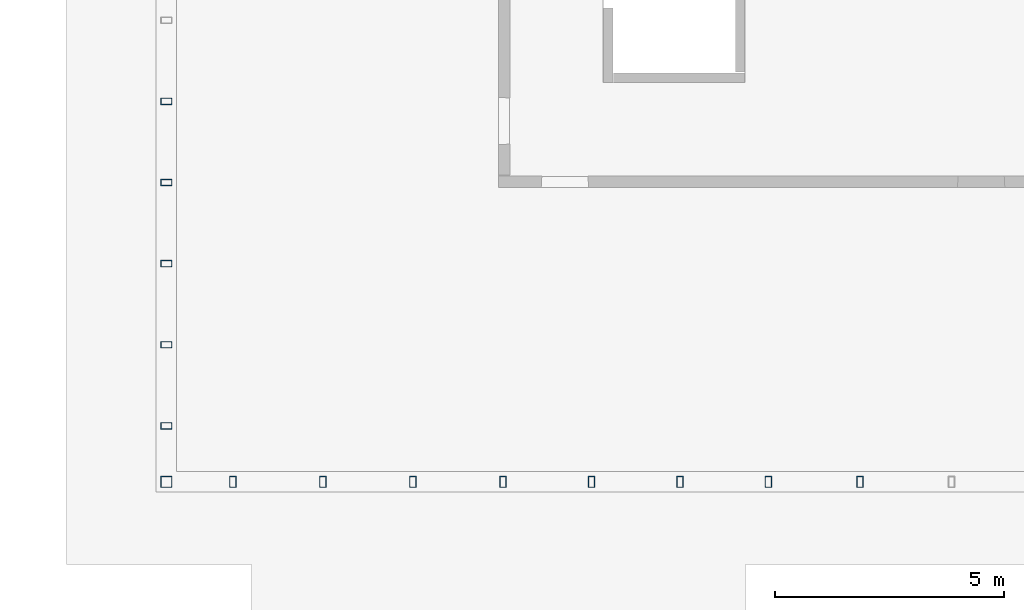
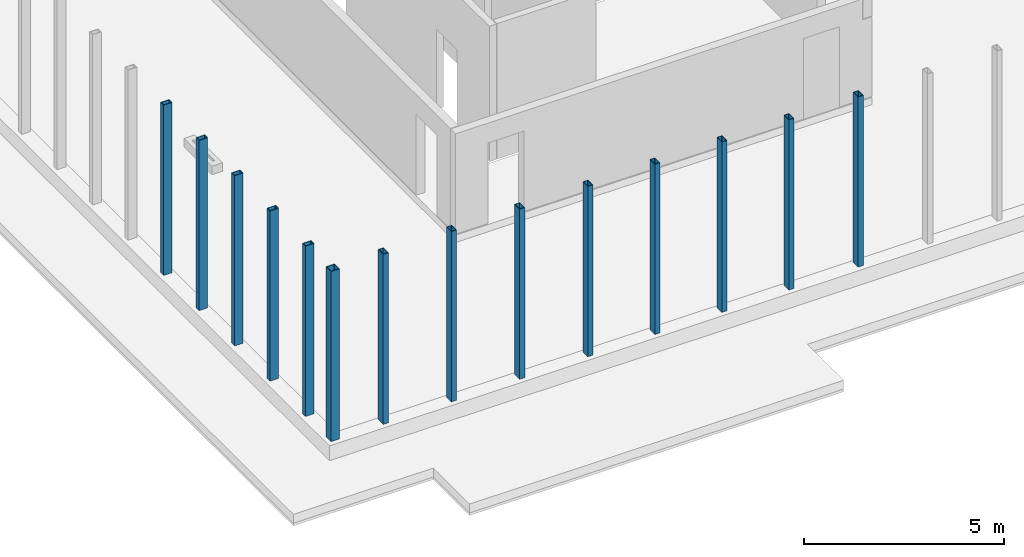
# One storey, part 1 of 9: 14 columns.
"""IFC2X3 building model written with IfcOpenShell, lengths in millimetres."""

from ifc_helpers import new_model, entity, si_unit, converted_unit, derived_unit, direction, frame, frame_2d, origin, place, context, subcontext, project, spatial, polyline, circle_curve, parameter, trimmed, segment, composite_curve, outline, extrude, source, transform, mapped, material, type_object, type_shapes, element, save


model = new_model("IFC2X3")

# Units and contexts
model_context = context("Model", 3, precision=0.01, world=origin(), true_north=direction((6.12303176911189e-17, 1.0)))
body_context = subcontext(model_context, "Body", "Model", "MODEL_VIEW")
ifc_project = project(units=[si_unit("LENGTHUNIT", "METRE", prefix="MILLI"), si_unit("AREAUNIT", "SQUARE_METRE"), si_unit("VOLUMEUNIT", "CUBIC_METRE"), converted_unit("PLANEANGLEUNIT", "DEGREE", entity("IfcRatioMeasure", 0.0174532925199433), si_unit("PLANEANGLEUNIT", "RADIAN"), dimensions=[0, 0, 0, 0, 0, 0, 0]), si_unit("MASSUNIT", "GRAM", prefix="KILO"), derived_unit("MASSDENSITYUNIT", [(si_unit("MASSUNIT", "GRAM", prefix="KILO"), 1), (si_unit("LENGTHUNIT", "METRE"), -3)]), si_unit("TIMEUNIT", "SECOND"), si_unit("FREQUENCYUNIT", "HERTZ"), si_unit("THERMODYNAMICTEMPERATUREUNIT", "DEGREE_CELSIUS"), derived_unit("THERMALTRANSMITTANCEUNIT", [(si_unit("MASSUNIT", "GRAM", prefix="KILO"), 1), (si_unit("THERMODYNAMICTEMPERATUREUNIT", "KELVIN"), -1), (si_unit("TIMEUNIT", "SECOND"), -3)]), derived_unit("VOLUMETRICFLOWRATEUNIT", [(si_unit("LENGTHUNIT", "METRE"), 3), (si_unit("TIMEUNIT", "SECOND"), -1)]), si_unit("ELECTRICCURRENTUNIT", "AMPERE"), si_unit("ELECTRICVOLTAGEUNIT", "VOLT"), si_unit("POWERUNIT", "WATT"), si_unit("FORCEUNIT", "NEWTON", prefix="KILO"), si_unit("ILLUMINANCEUNIT", "LUX"), si_unit("LUMINOUSFLUXUNIT", "LUMEN"), si_unit("LUMINOUSINTENSITYUNIT", "CANDELA"), derived_unit("USERDEFINED", [(si_unit("MASSUNIT", "GRAM", prefix="KILO"), -1), (si_unit("LENGTHUNIT", "METRE"), -2), (si_unit("TIMEUNIT", "SECOND"), 3), (si_unit("LUMINOUSFLUXUNIT", "LUMEN"), 1)]), derived_unit("LINEARVELOCITYUNIT", [(si_unit("LENGTHUNIT", "METRE"), 1), (si_unit("TIMEUNIT", "SECOND"), -1)]), si_unit("PRESSUREUNIT", "PASCAL"), derived_unit("USERDEFINED", [(si_unit("LENGTHUNIT", "METRE"), -2), (si_unit("MASSUNIT", "GRAM", prefix="KILO"), 1), (si_unit("TIMEUNIT", "SECOND"), -2)])], contexts=[model_context])

# Site, building, storey
site_placement = place(None, origin())
site = spatial("IfcSite", under=ifc_project, at=site_placement, Name="Default", CompositionType="ELEMENT")
building_placement = place(site_placement, origin())
building = spatial("IfcBuilding", under=site, at=building_placement, Name="niet gebruiken", CompositionType="ELEMENT")
storey_placement = place(building_placement, frame((0.0, 0.0, 178840.0)))
storey = spatial("IfcBuildingStorey", under=building, at=storey_placement, Name="57 zevenenvijftigste verdieping", CompositionType="ELEMENT", Elevation=178840.0)

# Columns
ifc_material = material(Name="NLRS_h2_staal")
column_type_1 = type_object("IfcColumnType", Name="kolom buisprofiel rechthoekig RHSH_250x150x16", PredefinedType="COLUMN", material=ifc_material)
shared_shape_1 = source(origin(), body_context, "Body", "SweptSolid", [
    extrude(outline(polyline([(-125.0, -75.0), (125.0, -75.0), (125.0, 75.0), (-125.0, 75.0), (-125.0, -75.0)]), holes=[composite_curve([segment(trimmed(circle_curve(frame_2d((-96.4999999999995, -46.5), x_axis=(0.0, 1.0)), 12.5), [parameter(90.0)], [parameter(180.0)], True, "PARAMETER"), False, "CONTINUOUS"), segment(polyline([(-109.0, -46.5), (-109.0, 46.5)]), True, "CONTINUOUS"), segment(trimmed(circle_curve(frame_2d((-96.4999999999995, 46.5), x_axis=(0.0, 1.0)), 12.5), [parameter(360.0)], [parameter(89.9999999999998)], True, "PARAMETER"), False, "CONTINUOUS"), segment(polyline([(-96.4999999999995, 59.0), (96.5000000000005, 59.0)]), True, "CONTINUOUS"), segment(trimmed(circle_curve(frame_2d((96.5000000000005, 46.5), x_axis=(0.0, 1.0)), 12.5), [parameter(270.0)], [parameter(360.0)], True, "PARAMETER"), False, "CONTINUOUS"), segment(polyline([(109.0, 46.5), (109.0, -46.5)]), True, "CONTINUOUS"), segment(trimmed(circle_curve(frame_2d((96.5000000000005, -46.5), x_axis=(0.0, 1.0)), 12.5), [parameter(180.0)], [parameter(270.0)], True, "PARAMETER"), False, "CONTINUOUS"), segment(polyline([(96.5000000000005, -59.0), (-96.4999999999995, -59.0)]), True, "CONTINUOUS")], self_intersect=False)]), frame((135850.0, 3870.0, 179010.0), z_axis=(0.0, 0.0, 1.0), x_axis=(0.0, -1.0, 0.0)), (0.0, 0.0, 1.0), 5190.00000000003),
])
type_shapes(column_type_1, [shared_shape_1])
column_1_placement = place(storey_placement, frame((0.0, 0.0, -178840.0)))
element("IfcColumn", 1, at=column_1_placement, inside=storey, type_object=column_type_1, material=ifc_material, Name="NLRS_28.11_SCO_TLB_stalen kolom buisprofiel rechthoekig_gen:kolom buisprofiel rechthoekig RHSH_250x150x16", ObjectType="kolom buisprofiel rechthoekig RHSH_250x150x16", context=body_context, shape_type="MappedRepresentation", body=[
    mapped(shared_shape_1, transform((0.0, 0.0, 0.0), scale=1.0)),
])
column_type_2 = type_object("IfcColumnType", Name="kolom buisprofiel rechthoekig RHSH_250x150x16", PredefinedType="COLUMN", material=ifc_material)
shared_shape_2 = source(origin(), body_context, "Body", "SweptSolid", [
    extrude(outline(polyline([(-125.0, -75.0), (125.0, -75.0), (125.0, 75.0), (-125.0, 75.0), (-125.0, -75.0)]), holes=[composite_curve([segment(trimmed(circle_curve(frame_2d((-96.4999999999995, -46.4999999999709), x_axis=(0.0, 1.0)), 12.5), [parameter(90.0)], [parameter(180.0)], True, "PARAMETER"), False, "CONTINUOUS"), segment(polyline([(-109.0, -46.4999999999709), (-109.0, 46.5)]), True, "CONTINUOUS"), segment(trimmed(circle_curve(frame_2d((-96.4999999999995, 46.5), x_axis=(0.0, 1.0)), 12.5), [parameter(360.0)], [parameter(89.9999999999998)], True, "PARAMETER"), False, "CONTINUOUS"), segment(polyline([(-96.4999999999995, 59.0), (96.5000000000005, 59.0)]), True, "CONTINUOUS"), segment(trimmed(circle_curve(frame_2d((96.5000000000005, 46.5), x_axis=(0.0, 1.0)), 12.5), [parameter(270.0)], [parameter(360.0)], True, "PARAMETER"), False, "CONTINUOUS"), segment(polyline([(109.0, 46.5), (109.0, -46.4999999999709)]), True, "CONTINUOUS"), segment(trimmed(circle_curve(frame_2d((96.5000000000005, -46.4999999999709), x_axis=(0.0, 1.0)), 12.5), [parameter(180.0)], [parameter(270.0)], True, "PARAMETER"), False, "CONTINUOUS"), segment(polyline([(96.5000000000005, -59.0), (-96.4999999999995, -59.0)]), True, "CONTINUOUS")], self_intersect=False)]), frame((141650.0, 3870.0, 179010.0), z_axis=(0.0, 0.0, 1.0), x_axis=(0.0, -1.0, 0.0)), (0.0, 0.0, 1.0), 5190.00000000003),
])
type_shapes(column_type_2, [shared_shape_2])
column_2_placement = place(storey_placement, frame((0.0, 0.0, -178840.0)))
element("IfcColumn", 2, at=column_2_placement, inside=storey, type_object=column_type_2, material=ifc_material, Name="NLRS_28.11_SCO_TLB_stalen kolom buisprofiel rechthoekig_gen:kolom buisprofiel rechthoekig RHSH_250x150x16", ObjectType="kolom buisprofiel rechthoekig RHSH_250x150x16", context=body_context, shape_type="MappedRepresentation", body=[
    mapped(shared_shape_2, transform((0.0, 0.0, 0.0), scale=1.0)),
])
column_type_3 = type_object("IfcColumnType", Name="kolom buisprofiel rechthoekig RHSH_250x150x16", PredefinedType="COLUMN", material=ifc_material)
shared_shape_3 = source(origin(), body_context, "Body", "SweptSolid", [
    extrude(outline(polyline([(-125.0, -75.0), (125.0, -75.0), (125.0, 75.0), (-125.0, 75.0), (-125.0, -75.0)]), holes=[composite_curve([segment(trimmed(circle_curve(frame_2d((-96.5000000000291, -46.5), x_axis=(0.0, 1.0)), 12.5), [parameter(90.0)], [parameter(180.0)], True, "PARAMETER"), False, "CONTINUOUS"), segment(polyline([(-109.0, -46.5), (-109.0, 46.5)]), True, "CONTINUOUS"), segment(trimmed(circle_curve(frame_2d((-96.5000000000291, 46.5), x_axis=(0.0, 1.0)), 12.5), [parameter(360.0)], [parameter(89.9999999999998)], True, "PARAMETER"), False, "CONTINUOUS"), segment(polyline([(-96.5, 59.0), (96.4999999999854, 59.0)]), True, "CONTINUOUS"), segment(trimmed(circle_curve(frame_2d((96.4999999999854, 46.5), x_axis=(0.0, 1.0)), 12.5), [parameter(270.0)], [parameter(360.0)], True, "PARAMETER"), False, "CONTINUOUS"), segment(polyline([(109.0, 46.5), (109.0, -46.5)]), True, "CONTINUOUS"), segment(trimmed(circle_curve(frame_2d((96.4999999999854, -46.5), x_axis=(0.0, 1.0)), 12.5), [parameter(180.0)], [parameter(270.0)], True, "PARAMETER"), False, "CONTINUOUS"), segment(polyline([(96.4999999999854, -59.0), (-96.5, -59.0)]), True, "CONTINUOUS")], self_intersect=False)]), frame((128495.0, 10410.0, 179010.0)), (0.0, 0.0, 1.0), 5190.00000000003),
])
type_shapes(column_type_3, [shared_shape_3])
column_3_placement = place(storey_placement, frame((0.0, 0.0, -178840.0)))
element("IfcColumn", 3, at=column_3_placement, inside=storey, type_object=column_type_3, material=ifc_material, Name="NLRS_28.11_SCO_TLB_stalen kolom buisprofiel rechthoekig_gen:kolom buisprofiel rechthoekig RHSH_250x150x16", ObjectType="kolom buisprofiel rechthoekig RHSH_250x150x16", context=body_context, shape_type="MappedRepresentation", body=[
    mapped(shared_shape_3, transform((0.0, 0.0, 0.0), scale=1.0)),
])
column_type_4 = type_object("IfcColumnType", Name="kolom buisprofiel rechthoekig RHSH_250x150x16", PredefinedType="COLUMN", material=ifc_material)
shared_shape_4 = source(origin(), body_context, "Body", "SweptSolid", [
    extrude(outline(polyline([(-125.0, -75.0), (125.0, -75.0), (125.0, 75.0), (-125.0, 75.0), (-125.0, -75.0)]), holes=[composite_curve([segment(trimmed(circle_curve(frame_2d((-96.5, -46.5), x_axis=(0.0, 1.0)), 12.5), [parameter(90.0)], [parameter(180.0)], True, "PARAMETER"), False, "CONTINUOUS"), segment(polyline([(-109.0, -46.5), (-109.0, 46.5)]), True, "CONTINUOUS"), segment(trimmed(circle_curve(frame_2d((-96.5, 46.5), x_axis=(0.0, 1.0)), 12.5), [parameter(360.0)], [parameter(89.9999999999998)], True, "PARAMETER"), False, "CONTINUOUS"), segment(polyline([(-96.5, 59.0), (96.5, 59.0)]), True, "CONTINUOUS"), segment(trimmed(circle_curve(frame_2d((96.5, 46.5), x_axis=(0.0, 1.0)), 12.5), [parameter(270.0)], [parameter(360.0)], True, "PARAMETER"), False, "CONTINUOUS"), segment(polyline([(109.0, 46.5), (109.0, -46.5)]), True, "CONTINUOUS"), segment(trimmed(circle_curve(frame_2d((96.5, -46.5), x_axis=(0.0, 1.0)), 12.5), [parameter(180.0)], [parameter(270.0)], True, "PARAMETER"), False, "CONTINUOUS"), segment(polyline([(96.5, -59.0), (-96.5, -59.0)]), True, "CONTINUOUS")], self_intersect=False)]), frame((129950.0, 3870.0, 179010.0), z_axis=(0.0, 0.0, 1.0), x_axis=(0.0, -1.0, 0.0)), (0.0, 0.0, 1.0), 5190.00000000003),
])
type_shapes(column_type_4, [shared_shape_4])
column_4_placement = place(storey_placement, frame((0.0, 0.0, -178840.0)))
element("IfcColumn", 4, at=column_4_placement, inside=storey, type_object=column_type_4, material=ifc_material, Name="NLRS_28.11_SCO_TLB_stalen kolom buisprofiel rechthoekig_gen:kolom buisprofiel rechthoekig RHSH_250x150x16", ObjectType="kolom buisprofiel rechthoekig RHSH_250x150x16", context=body_context, shape_type="MappedRepresentation", body=[
    mapped(shared_shape_4, transform((0.0, 0.0, 0.0), scale=1.0)),
])
column_type_5 = type_object("IfcColumnType", Name="kolom buisprofiel rechthoekig RHSH_250x150x16", PredefinedType="COLUMN", material=ifc_material)
shared_shape_5 = source(origin(), body_context, "Body", "SweptSolid", [
    extrude(outline(polyline([(-125.0, -75.0), (125.0, -75.0), (125.0, 75.0), (-125.0, 75.0), (-125.0, -75.0)]), holes=[composite_curve([segment(trimmed(circle_curve(frame_2d((-96.5000000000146, -46.5000000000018), x_axis=(0.0, 1.0)), 12.5), [parameter(90.0)], [parameter(180.0)], True, "PARAMETER"), False, "CONTINUOUS"), segment(polyline([(-109.0, -46.5000000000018), (-109.0, 46.5)]), True, "CONTINUOUS"), segment(trimmed(circle_curve(frame_2d((-96.5000000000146, 46.5), x_axis=(0.0, 1.0)), 12.5), [parameter(360.0)], [parameter(89.9999999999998)], True, "PARAMETER"), False, "CONTINUOUS"), segment(polyline([(-96.5, 59.0), (96.4999999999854, 59.0)]), True, "CONTINUOUS"), segment(trimmed(circle_curve(frame_2d((96.4999999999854, 46.5), x_axis=(0.0, 1.0)), 12.5), [parameter(270.0)], [parameter(360.0)], True, "PARAMETER"), False, "CONTINUOUS"), segment(polyline([(109.0, 46.5), (109.0, -46.5000000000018)]), True, "CONTINUOUS"), segment(trimmed(circle_curve(frame_2d((96.4999999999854, -46.5000000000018), x_axis=(0.0, 1.0)), 12.5), [parameter(180.0)], [parameter(270.0)], True, "PARAMETER"), False, "CONTINUOUS"), segment(polyline([(96.4999999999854, -59.0), (-96.5, -59.0)]), True, "CONTINUOUS")], self_intersect=False)]), frame((128495.0, 12182.5000000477, 179010.0)), (0.0, 0.0, 1.0), 5190.00000000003),
])
type_shapes(column_type_5, [shared_shape_5])
column_5_placement = place(storey_placement, frame((0.0, 0.0, -178840.0)))
element("IfcColumn", 5, at=column_5_placement, inside=storey, type_object=column_type_5, material=ifc_material, Name="NLRS_28.11_SCO_TLB_stalen kolom buisprofiel rechthoekig_gen:kolom buisprofiel rechthoekig RHSH_250x150x16", ObjectType="kolom buisprofiel rechthoekig RHSH_250x150x16", context=body_context, shape_type="MappedRepresentation", body=[
    mapped(shared_shape_5, transform((0.0, 0.0, 0.0), scale=1.0)),
])
column_type_6 = type_object("IfcColumnType", Name="kolom buisprofiel rechthoekig RHSH_250x150x16", PredefinedType="COLUMN", material=ifc_material)
shared_shape_6 = source(origin(), body_context, "Body", "SweptSolid", [
    extrude(outline(polyline([(-125.0, -75.0), (125.0, -75.0), (125.0, 75.0), (-125.0, 75.0), (-125.0, -75.0)]), holes=[composite_curve([segment(trimmed(circle_curve(frame_2d((-96.5000000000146, -46.5), x_axis=(0.0, 1.0)), 12.5), [parameter(90.0)], [parameter(180.0)], True, "PARAMETER"), False, "CONTINUOUS"), segment(polyline([(-109.0, -46.5), (-109.0, 46.5)]), True, "CONTINUOUS"), segment(trimmed(circle_curve(frame_2d((-96.5000000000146, 46.5), x_axis=(0.0, 1.0)), 12.5), [parameter(360.0)], [parameter(89.9999999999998)], True, "PARAMETER"), False, "CONTINUOUS"), segment(polyline([(-96.5, 59.0), (96.4999999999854, 59.0)]), True, "CONTINUOUS"), segment(trimmed(circle_curve(frame_2d((96.4999999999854, 46.5), x_axis=(0.0, 1.0)), 12.5), [parameter(270.0)], [parameter(360.0)], True, "PARAMETER"), False, "CONTINUOUS"), segment(polyline([(109.0, 46.4999999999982), (109.0, -46.5)]), True, "CONTINUOUS"), segment(trimmed(circle_curve(frame_2d((96.4999999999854, -46.5), x_axis=(0.0, 1.0)), 12.5), [parameter(180.0)], [parameter(270.0)], True, "PARAMETER"), False, "CONTINUOUS"), segment(polyline([(96.4999999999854, -59.0), (-96.5, -59.0)]), True, "CONTINUOUS")], self_intersect=False)]), frame((128495.0, 8637.50000005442, 179010.0)), (0.0, 0.0, 1.0), 5190.00000000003),
])
type_shapes(column_type_6, [shared_shape_6])
column_6_placement = place(storey_placement, frame((0.0, 0.0, -178840.0)))
element("IfcColumn", 6, at=column_6_placement, inside=storey, type_object=column_type_6, material=ifc_material, Name="NLRS_28.11_SCO_TLB_stalen kolom buisprofiel rechthoekig_gen:kolom buisprofiel rechthoekig RHSH_250x150x16", ObjectType="kolom buisprofiel rechthoekig RHSH_250x150x16", context=body_context, shape_type="MappedRepresentation", body=[
    mapped(shared_shape_6, transform((0.0, 0.0, 0.0), scale=1.0)),
])
column_type_7 = type_object("IfcColumnType", Name="kolom buisprofiel rechthoekig RHSH_250x150x16", PredefinedType="COLUMN", material=ifc_material)
shared_shape_7 = source(origin(), body_context, "Body", "SweptSolid", [
    extrude(outline(polyline([(-125.0, -75.0), (125.0, -75.0), (125.0, 75.0), (-125.0, 75.0), (-125.0, -75.0)]), holes=[composite_curve([segment(trimmed(circle_curve(frame_2d((-96.5000000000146, -46.5), x_axis=(0.0, 1.0)), 12.5), [parameter(90.0)], [parameter(180.0)], True, "PARAMETER"), False, "CONTINUOUS"), segment(polyline([(-109.0, -46.5), (-109.0, 46.5000000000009)]), True, "CONTINUOUS"), segment(trimmed(circle_curve(frame_2d((-96.5000000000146, 46.5000000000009), x_axis=(0.0, 1.0)), 12.5), [parameter(360.0)], [parameter(89.9999999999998)], True, "PARAMETER"), False, "CONTINUOUS"), segment(polyline([(-96.5, 59.0), (96.4999999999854, 59.0)]), True, "CONTINUOUS"), segment(trimmed(circle_curve(frame_2d((96.4999999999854, 46.5000000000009), x_axis=(0.0, 1.0)), 12.5), [parameter(270.0)], [parameter(360.0)], True, "PARAMETER"), False, "CONTINUOUS"), segment(polyline([(109.0, 46.5), (109.0, -46.5)]), True, "CONTINUOUS"), segment(trimmed(circle_curve(frame_2d((96.4999999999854, -46.5), x_axis=(0.0, 1.0)), 12.5), [parameter(180.0)], [parameter(270.0)], True, "PARAMETER"), False, "CONTINUOUS"), segment(polyline([(96.4999999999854, -59.0), (-96.5, -59.0)]), True, "CONTINUOUS")], self_intersect=False)]), frame((128495.0, 6865.0, 179010.0)), (0.0, 0.0, 1.0), 5190.00000000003),
])
type_shapes(column_type_7, [shared_shape_7])
column_7_placement = place(storey_placement, frame((0.0, 0.0, -178840.0)))
element("IfcColumn", 7, at=column_7_placement, inside=storey, type_object=column_type_7, material=ifc_material, Name="NLRS_28.11_SCO_TLB_stalen kolom buisprofiel rechthoekig_gen:kolom buisprofiel rechthoekig RHSH_250x150x16", ObjectType="kolom buisprofiel rechthoekig RHSH_250x150x16", context=body_context, shape_type="MappedRepresentation", body=[
    mapped(shared_shape_7, transform((0.0, 0.0, 0.0), scale=1.0)),
])
column_type_8 = type_object("IfcColumnType", Name="kolom buisprofiel rechthoekig RHSH_250x150x16", PredefinedType="COLUMN", material=ifc_material)
shared_shape_8 = source(origin(), body_context, "Body", "SweptSolid", [
    extrude(outline(polyline([(-125.0, -75.0), (125.0, -75.0), (125.0, 75.0), (-125.0, 75.0), (-125.0, -75.0)]), holes=[composite_curve([segment(trimmed(circle_curve(frame_2d((-96.5000000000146, -46.5), x_axis=(0.0, 1.0)), 12.5), [parameter(90.0)], [parameter(180.0)], True, "PARAMETER"), False, "CONTINUOUS"), segment(polyline([(-109.0, -46.5), (-109.0, 46.5)]), True, "CONTINUOUS"), segment(trimmed(circle_curve(frame_2d((-96.5000000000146, 46.5), x_axis=(0.0, 1.0)), 12.5), [parameter(360.0)], [parameter(89.9999999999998)], True, "PARAMETER"), False, "CONTINUOUS"), segment(polyline([(-96.5, 59.0), (96.4999999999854, 59.0)]), True, "CONTINUOUS"), segment(trimmed(circle_curve(frame_2d((96.4999999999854, 46.5), x_axis=(0.0, 1.0)), 12.5), [parameter(270.0)], [parameter(360.0)], True, "PARAMETER"), False, "CONTINUOUS"), segment(polyline([(109.0, 46.4999999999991), (109.0, -46.5)]), True, "CONTINUOUS"), segment(trimmed(circle_curve(frame_2d((96.4999999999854, -46.5), x_axis=(0.0, 1.0)), 12.5), [parameter(180.0)], [parameter(270.0)], True, "PARAMETER"), False, "CONTINUOUS"), segment(polyline([(96.4999999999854, -59.0), (-96.5, -59.0)]), True, "CONTINUOUS")], self_intersect=False)]), frame((128495.0, 5092.50000005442, 179010.0)), (0.0, 0.0, 1.0), 5190.00000000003),
])
type_shapes(column_type_8, [shared_shape_8])
column_8_placement = place(storey_placement, frame((0.0, 0.0, -178840.0)))
element("IfcColumn", 8, at=column_8_placement, inside=storey, type_object=column_type_8, material=ifc_material, Name="NLRS_28.11_SCO_TLB_stalen kolom buisprofiel rechthoekig_gen:kolom buisprofiel rechthoekig RHSH_250x150x16", ObjectType="kolom buisprofiel rechthoekig RHSH_250x150x16", context=body_context, shape_type="MappedRepresentation", body=[
    mapped(shared_shape_8, transform((0.0, 0.0, 0.0), scale=1.0)),
])
column_type_9 = type_object("IfcColumnType", Name="kolom buisprofiel rechthoekig RHSH_250x150x16", PredefinedType="COLUMN", material=ifc_material)
shared_shape_9 = source(origin(), body_context, "Body", "SweptSolid", [
    extrude(outline(polyline([(-125.0, -75.0), (125.0, -75.0), (125.0, 75.0), (-125.0, 75.0), (-125.0, -75.0)]), holes=[composite_curve([segment(trimmed(circle_curve(frame_2d((-96.4999999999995, -46.5), x_axis=(0.0, 1.0)), 12.5), [parameter(90.0)], [parameter(180.0)], True, "PARAMETER"), False, "CONTINUOUS"), segment(polyline([(-109.0, -46.5), (-109.0, 46.5)]), True, "CONTINUOUS"), segment(trimmed(circle_curve(frame_2d((-96.4999999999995, 46.5), x_axis=(0.0, 1.0)), 12.5), [parameter(360.0)], [parameter(89.9999999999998)], True, "PARAMETER"), False, "CONTINUOUS"), segment(polyline([(-96.4999999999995, 59.0), (96.5000000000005, 59.0)]), True, "CONTINUOUS"), segment(trimmed(circle_curve(frame_2d((96.5000000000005, 46.5), x_axis=(0.0, 1.0)), 12.5), [parameter(270.0)], [parameter(360.0)], True, "PARAMETER"), False, "CONTINUOUS"), segment(polyline([(109.0, 46.5), (109.0, -46.5)]), True, "CONTINUOUS"), segment(trimmed(circle_curve(frame_2d((96.5000000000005, -46.5), x_axis=(0.0, 1.0)), 12.5), [parameter(180.0)], [parameter(270.0)], True, "PARAMETER"), False, "CONTINUOUS"), segment(polyline([(96.5000000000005, -59.0), (-96.4999999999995, -59.0)]), True, "CONTINUOUS")], self_intersect=False)]), frame((131916.666666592, 3870.0, 179010.0), z_axis=(0.0, 0.0, 1.0), x_axis=(0.0, -1.0, 0.0)), (0.0, 0.0, 1.0), 5190.00000000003),
])
type_shapes(column_type_9, [shared_shape_9])
column_9_placement = place(storey_placement, frame((0.0, 0.0, -178840.0)))
element("IfcColumn", 9, at=column_9_placement, inside=storey, type_object=column_type_9, material=ifc_material, Name="NLRS_28.11_SCO_TLB_stalen kolom buisprofiel rechthoekig_gen:kolom buisprofiel rechthoekig RHSH_250x150x16", ObjectType="kolom buisprofiel rechthoekig RHSH_250x150x16", context=body_context, shape_type="MappedRepresentation", body=[
    mapped(shared_shape_9, transform((0.0, 0.0, 0.0), scale=1.0)),
])
column_type_10 = type_object("IfcColumnType", Name="kolom buisprofiel rechthoekig RHSH_250x150x16", PredefinedType="COLUMN", material=ifc_material)
shared_shape_10 = source(origin(), body_context, "Body", "SweptSolid", [
    extrude(outline(polyline([(-125.0, -75.0), (125.0, -75.0), (125.0, 75.0), (-125.0, 75.0), (-125.0, -75.0)]), holes=[composite_curve([segment(trimmed(circle_curve(frame_2d((-96.5, -46.5), x_axis=(0.0, 1.0)), 12.5), [parameter(90.0)], [parameter(180.0)], True, "PARAMETER"), False, "CONTINUOUS"), segment(polyline([(-109.0, -46.5), (-109.0, 46.5)]), True, "CONTINUOUS"), segment(trimmed(circle_curve(frame_2d((-96.5, 46.5), x_axis=(0.0, 1.0)), 12.5), [parameter(360.0)], [parameter(89.9999999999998)], True, "PARAMETER"), False, "CONTINUOUS"), segment(polyline([(-96.5, 59.0), (96.5, 59.0)]), True, "CONTINUOUS"), segment(trimmed(circle_curve(frame_2d((96.5, 46.5), x_axis=(0.0, 1.0)), 12.5), [parameter(270.0)], [parameter(360.0)], True, "PARAMETER"), False, "CONTINUOUS"), segment(polyline([(109.0, 46.5), (109.0, -46.5)]), True, "CONTINUOUS"), segment(trimmed(circle_curve(frame_2d((96.5, -46.5), x_axis=(0.0, 1.0)), 12.5), [parameter(180.0)], [parameter(270.0)], True, "PARAMETER"), False, "CONTINUOUS"), segment(polyline([(96.5, -59.0), (-96.5, -59.0)]), True, "CONTINUOUS")], self_intersect=False)]), frame((133883.333333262, 3870.0, 179010.0), z_axis=(0.0, 0.0, 1.0), x_axis=(0.0, -1.0, 0.0)), (0.0, 0.0, 1.0), 5190.00000000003),
])
type_shapes(column_type_10, [shared_shape_10])
column_10_placement = place(storey_placement, frame((0.0, 0.0, -178840.0)))
element("IfcColumn", 10, at=column_10_placement, inside=storey, type_object=column_type_10, material=ifc_material, Name="NLRS_28.11_SCO_TLB_stalen kolom buisprofiel rechthoekig_gen:kolom buisprofiel rechthoekig RHSH_250x150x16", ObjectType="kolom buisprofiel rechthoekig RHSH_250x150x16", context=body_context, shape_type="MappedRepresentation", body=[
    mapped(shared_shape_10, transform((0.0, 0.0, 0.0), scale=1.0)),
])
column_type_11 = type_object("IfcColumnType", Name="kolom buisprofiel rechthoekig RHSH_250x150x16", PredefinedType="COLUMN", material=ifc_material)
shared_shape_11 = source(origin(), body_context, "Body", "SweptSolid", [
    extrude(outline(polyline([(-125.0, -75.0), (125.0, -75.0), (125.0, 75.0), (-125.0, 75.0), (-125.0, -75.0)]), holes=[composite_curve([segment(trimmed(circle_curve(frame_2d((-96.5, -46.5), x_axis=(0.0, 1.0)), 12.5), [parameter(90.0)], [parameter(180.0)], True, "PARAMETER"), False, "CONTINUOUS"), segment(polyline([(-109.0, -46.5), (-109.0, 46.5)]), True, "CONTINUOUS"), segment(trimmed(circle_curve(frame_2d((-96.5, 46.5), x_axis=(0.0, 1.0)), 12.5), [parameter(360.0)], [parameter(89.9999999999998)], True, "PARAMETER"), False, "CONTINUOUS"), segment(polyline([(-96.5, 59.0), (96.5, 59.0)]), True, "CONTINUOUS"), segment(trimmed(circle_curve(frame_2d((96.5, 46.5), x_axis=(0.0, 1.0)), 12.5), [parameter(270.0)], [parameter(360.0)], True, "PARAMETER"), False, "CONTINUOUS"), segment(polyline([(109.0, 46.5), (109.0, -46.5)]), True, "CONTINUOUS"), segment(trimmed(circle_curve(frame_2d((96.5, -46.5), x_axis=(0.0, 1.0)), 12.5), [parameter(180.0)], [parameter(270.0)], True, "PARAMETER"), False, "CONTINUOUS"), segment(polyline([(96.5, -59.0), (-96.5, -59.0)]), True, "CONTINUOUS")], self_intersect=False)]), frame((137783.333333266, 3870.0, 179010.0), z_axis=(0.0, 0.0, 1.0), x_axis=(0.0, -1.0, 0.0)), (0.0, 0.0, 1.0), 5190.00000000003),
])
type_shapes(column_type_11, [shared_shape_11])
column_11_placement = place(storey_placement, frame((0.0, 0.0, -178840.0)))
element("IfcColumn", 11, at=column_11_placement, inside=storey, type_object=column_type_11, material=ifc_material, Name="NLRS_28.11_SCO_TLB_stalen kolom buisprofiel rechthoekig_gen:kolom buisprofiel rechthoekig RHSH_250x150x16", ObjectType="kolom buisprofiel rechthoekig RHSH_250x150x16", context=body_context, shape_type="MappedRepresentation", body=[
    mapped(shared_shape_11, transform((0.0, 0.0, 0.0), scale=1.0)),
])
column_type_12 = type_object("IfcColumnType", Name="kolom buisprofiel rechthoekig RHSH_250x150x16", PredefinedType="COLUMN", material=ifc_material)
shared_shape_12 = source(origin(), body_context, "Body", "SweptSolid", [
    extrude(outline(polyline([(-125.0, -75.0), (125.0, -75.0), (125.0, 75.0), (-125.0, 75.0), (-125.0, -75.0)]), holes=[composite_curve([segment(trimmed(circle_curve(frame_2d((-96.5000000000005, -46.5), x_axis=(0.0, 1.0)), 12.5), [parameter(90.0)], [parameter(180.0)], True, "PARAMETER"), False, "CONTINUOUS"), segment(polyline([(-109.0, -46.5), (-109.0, 46.5)]), True, "CONTINUOUS"), segment(trimmed(circle_curve(frame_2d((-96.5000000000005, 46.5), x_axis=(0.0, 1.0)), 12.5), [parameter(360.0)], [parameter(89.9999999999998)], True, "PARAMETER"), False, "CONTINUOUS"), segment(polyline([(-96.5000000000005, 59.0), (96.4999999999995, 59.0)]), True, "CONTINUOUS"), segment(trimmed(circle_curve(frame_2d((96.4999999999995, 46.5), x_axis=(0.0, 1.0)), 12.5), [parameter(270.0)], [parameter(360.0)], True, "PARAMETER"), False, "CONTINUOUS"), segment(polyline([(109.0, 46.5), (109.0, -46.5)]), True, "CONTINUOUS"), segment(trimmed(circle_curve(frame_2d((96.4999999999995, -46.5), x_axis=(0.0, 1.0)), 12.5), [parameter(180.0)], [parameter(270.0)], True, "PARAMETER"), False, "CONTINUOUS"), segment(polyline([(96.4999999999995, -59.0), (-96.5000000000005, -59.0)]), True, "CONTINUOUS")], self_intersect=False)]), frame((139716.666666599, 3870.0, 179010.0), z_axis=(0.0, 0.0, 1.0), x_axis=(0.0, -1.0, 0.0)), (0.0, 0.0, 1.0), 5190.00000000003),
])
type_shapes(column_type_12, [shared_shape_12])
column_12_placement = place(storey_placement, frame((0.0, 0.0, -178840.0)))
element("IfcColumn", 12, at=column_12_placement, inside=storey, type_object=column_type_12, material=ifc_material, Name="NLRS_28.11_SCO_TLB_stalen kolom buisprofiel rechthoekig_gen:kolom buisprofiel rechthoekig RHSH_250x150x16", ObjectType="kolom buisprofiel rechthoekig RHSH_250x150x16", context=body_context, shape_type="MappedRepresentation", body=[
    mapped(shared_shape_12, transform((0.0, 0.0, 0.0), scale=1.0)),
])
column_type_13 = type_object("IfcColumnType", Name="kolom buisprofiel rechthoekig RHSH_250x150x16", PredefinedType="COLUMN", material=ifc_material)
shared_shape_13 = source(origin(), body_context, "Body", "SweptSolid", [
    extrude(outline(polyline([(-125.0, -75.0), (125.0, -75.0), (125.0, 75.0), (-125.0, 75.0), (-125.0, -75.0)]), holes=[composite_curve([segment(trimmed(circle_curve(frame_2d((-96.5, -46.5), x_axis=(0.0, 1.0)), 12.5), [parameter(90.0)], [parameter(180.0)], True, "PARAMETER"), False, "CONTINUOUS"), segment(polyline([(-109.0, -46.5), (-109.0, 46.5)]), True, "CONTINUOUS"), segment(trimmed(circle_curve(frame_2d((-96.5, 46.5), x_axis=(0.0, 1.0)), 12.5), [parameter(360.0)], [parameter(89.9999999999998)], True, "PARAMETER"), False, "CONTINUOUS"), segment(polyline([(-96.5, 59.0), (96.5, 59.0)]), True, "CONTINUOUS"), segment(trimmed(circle_curve(frame_2d((96.5, 46.5), x_axis=(0.0, 1.0)), 12.5), [parameter(270.0)], [parameter(360.0)], True, "PARAMETER"), False, "CONTINUOUS"), segment(polyline([(109.0, 46.5), (109.0, -46.5)]), True, "CONTINUOUS"), segment(trimmed(circle_curve(frame_2d((96.5, -46.5), x_axis=(0.0, 1.0)), 12.5), [parameter(180.0)], [parameter(270.0)], True, "PARAMETER"), False, "CONTINUOUS"), segment(polyline([(96.5, -59.0), (-96.5, -59.0)]), True, "CONTINUOUS")], self_intersect=False)]), frame((143650.0, 3870.0, 179010.0), z_axis=(0.0, 0.0, 1.0), x_axis=(0.0, -1.0, 0.0)), (0.0, 0.0, 1.0), 5190.00000000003),
])
type_shapes(column_type_13, [shared_shape_13])
column_13_placement = place(storey_placement, frame((0.0, 0.0, -178840.0)))
element("IfcColumn", 13, at=column_13_placement, inside=storey, type_object=column_type_13, material=ifc_material, Name="NLRS_28.11_SCO_TLB_stalen kolom buisprofiel rechthoekig_gen:kolom buisprofiel rechthoekig RHSH_250x150x16", ObjectType="kolom buisprofiel rechthoekig RHSH_250x150x16", context=body_context, shape_type="MappedRepresentation", body=[
    mapped(shared_shape_13, transform((0.0, 0.0, 0.0), scale=1.0)),
])
column_type_14 = type_object("IfcColumnType", Name="kolom buisprofiel warmgevormd vierkant SHSH_250x250x16", PredefinedType="COLUMN", material=ifc_material)
shared_shape_14 = source(origin(), body_context, "Body", "SweptSolid", [
    extrude(outline(polyline([(-125.0, -125.0), (125.0, -125.0), (125.0, 125.0), (-125.0, 125.0), (-125.0, -125.0)]), holes=[composite_curve([segment(trimmed(circle_curve(frame_2d((-99.0, -99.0), x_axis=(0.0, 1.0)), 10.0), [parameter(90.0000000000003)], [parameter(180.0)], True, "PARAMETER"), False, "CONTINUOUS"), segment(polyline([(-109.0, -99.0), (-109.0, 99.0)]), True, "CONTINUOUS"), segment(trimmed(circle_curve(frame_2d((-99.0, 99.0), x_axis=(0.0, 1.0)), 10.0), [parameter(0.0)], [parameter(89.9999999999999)], True, "PARAMETER"), False, "CONTINUOUS"), segment(polyline([(-99.0, 109.0), (99.0, 109.0)]), True, "CONTINUOUS"), segment(trimmed(circle_curve(frame_2d((99.0, 99.0), x_axis=(0.0, 1.0)), 10.0), [parameter(270.0)], [parameter(360.0)], True, "PARAMETER"), False, "CONTINUOUS"), segment(polyline([(109.0, 99.0), (109.0, -99.0)]), True, "CONTINUOUS"), segment(trimmed(circle_curve(frame_2d((99.0, -99.0), x_axis=(0.0, 1.0)), 10.0), [parameter(180.0)], [parameter(270.0)], True, "PARAMETER"), False, "CONTINUOUS"), segment(polyline([(99.0, -109.0), (-99.0, -109.0)]), True, "CONTINUOUS")], self_intersect=False)]), frame((128495.0, 3870.0, 179010.0), z_axis=(0.0, 0.0, 1.0), x_axis=(0.0, -1.0, 0.0)), (0.0, 0.0, 1.0), 5190.00000000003),
])
type_shapes(column_type_14, [shared_shape_14])
column_14_placement = place(storey_placement, frame((0.0, 0.0, -178840.0)))
element("IfcColumn", 14, at=column_14_placement, inside=storey, type_object=column_type_14, material=ifc_material, Name="NLRS_28.11_SCO_TLB_stalen kolom buisprofiel warmgevormd vierkant_gen:kolom buisprofiel warmgevormd vierkant SHSH_250x250x16", ObjectType="kolom buisprofiel warmgevormd vierkant SHSH_250x250x16", context=body_context, shape_type="MappedRepresentation", body=[
    mapped(shared_shape_14, transform((0.0, 0.0, 0.0), scale=1.0)),
])

save(model, "model.ifc")
